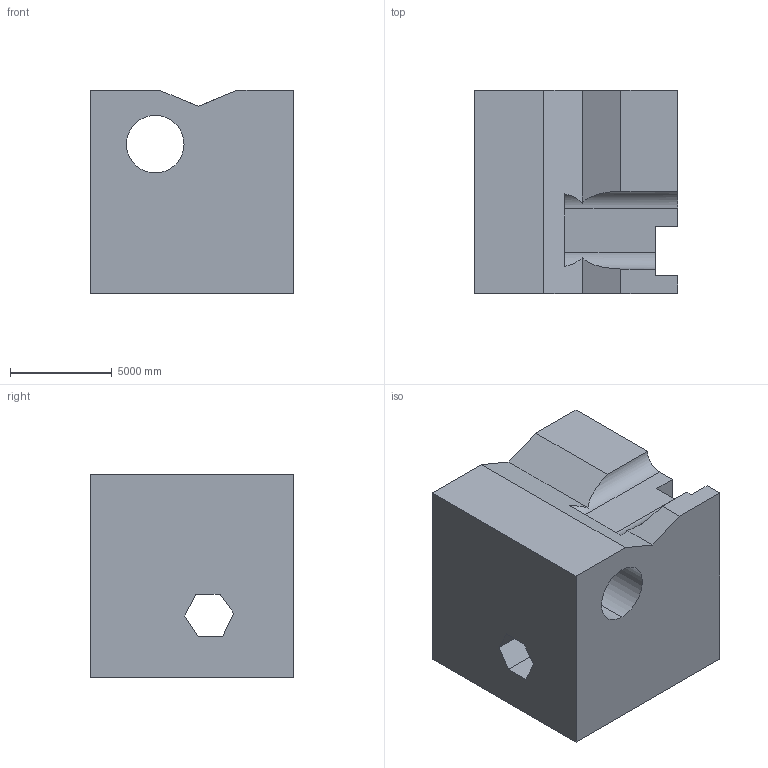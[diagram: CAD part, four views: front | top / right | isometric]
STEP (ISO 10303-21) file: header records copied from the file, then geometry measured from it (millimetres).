
FILE_DESCRIPTION (( 'STEP AP203' ), '1' );
FILE_NAME ('289.STEP', '2022-09-07T12:38:50', ( 'user' ), ( '' ), 'SwSTEP 2.0', 'SolidWorks 2021', '' );
FILE_SCHEMA (( 'CONFIG_CONTROL_DESIGN' ));
Length unit declared in the file: centimetre
Products named in the file (1): 289
Bounding box: 10000 x 10000 x 10000 mm (x, y, z)
Volume: 848842865328.9 mm3; surface area: 754653753.1 mm2
Topology: 1 solids, 1 shells, 28 faces, 81 edges, 54 vertices
Faces by surface type: plane 24, cylinder 4
Entity records: 998 total; most frequent: CARTESIAN_POINT 176, ORIENTED_EDGE 162, DIRECTION 143, EDGE_CURVE 81, LINE 69, VECTOR 69, VERTEX_POINT 54, AXIS2_PLACEMENT_3D 37
